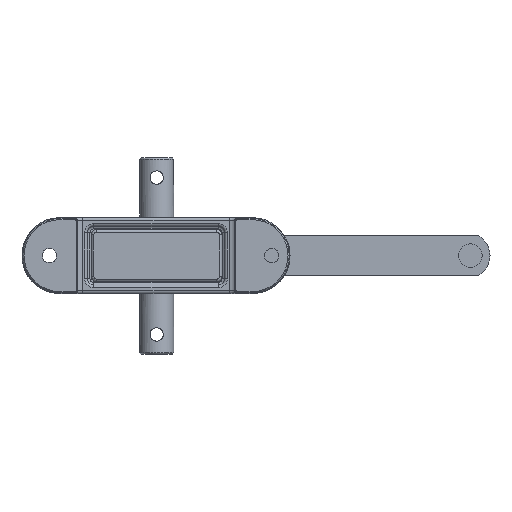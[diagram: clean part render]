
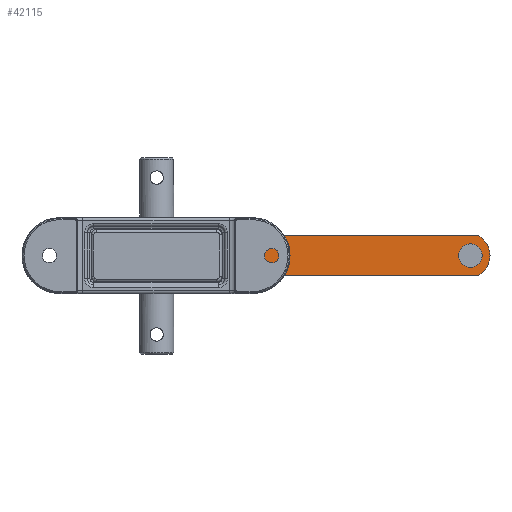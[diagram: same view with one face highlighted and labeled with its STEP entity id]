
A CAD part, left-side view. The second image highlights one B-rep face of the part: STEP entity #42115.
In plain terms, the highlighted planar face has unit normal (-1, 0, 0).
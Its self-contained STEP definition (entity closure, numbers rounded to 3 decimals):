
#957=FACE_BOUND('',#8637,.T.);
#958=FACE_BOUND('',#8638,.T.);
#1354=PLANE('',#45356);
#6144=FACE_OUTER_BOUND('',#8636,.T.);
#8636=EDGE_LOOP('',(#33202,#33203,#33204,#33205));
#8637=EDGE_LOOP('',(#33206));
#8638=EDGE_LOOP('',(#33207,#33208,#33209,#33210,#33211,#33212,#33213,#33214));
#11093=LINE('',#79354,#14530);
#11094=LINE('',#79357,#14531);
#11095=LINE('',#79360,#14532);
#11096=LINE('',#79363,#14533);
#11097=LINE('',#79365,#14534);
#11098=LINE('',#79369,#14535);
#14530=VECTOR('',#50921,10.);
#14531=VECTOR('',#50924,10.);
#14532=VECTOR('',#50925,10.);
#14533=VECTOR('',#50928,10.);
#14534=VECTOR('',#50929,10.);
#14535=VECTOR('',#50932,10.);
#18043=CIRCLE('',#45349,7.);
#18044=CIRCLE('',#45351,1.619);
#18046=CIRCLE('',#45354,17.5);
#18048=CIRCLE('',#45357,17.5);
#18049=CIRCLE('',#45358,1.619);
#18050=CIRCLE('',#45359,1.619);
#18051=CIRCLE('',#45360,1.619);
#19665=VERTEX_POINT('',#79331);
#19666=VERTEX_POINT('',#79335);
#19667=VERTEX_POINT('',#79336);
#19670=VERTEX_POINT('',#79344);
#19671=VERTEX_POINT('',#79345);
#19674=VERTEX_POINT('',#79353);
#19675=VERTEX_POINT('',#79355);
#19676=VERTEX_POINT('',#79358);
#19677=VERTEX_POINT('',#79359);
#19678=VERTEX_POINT('',#79361);
#19679=VERTEX_POINT('',#79364);
#19680=VERTEX_POINT('',#79366);
#19681=VERTEX_POINT('',#79368);
#24592=EDGE_CURVE('',#19665,#19665,#18043,.T.);
#24593=EDGE_CURVE('',#19666,#19667,#18044,.T.);
#24597=EDGE_CURVE('',#19670,#19671,#18046,.T.);
#24601=EDGE_CURVE('',#19670,#19674,#11093,.T.);
#24602=EDGE_CURVE('',#19675,#19674,#18048,.T.);
#24603=EDGE_CURVE('',#19671,#19675,#11094,.T.);
#24604=EDGE_CURVE('',#19676,#19677,#11095,.T.);
#24605=EDGE_CURVE('',#19676,#19678,#18049,.T.);
#24606=EDGE_CURVE('',#19666,#19678,#11096,.T.);
#24607=EDGE_CURVE('',#19667,#19679,#11097,.T.);
#24608=EDGE_CURVE('',#19680,#19679,#18050,.T.);
#24609=EDGE_CURVE('',#19680,#19681,#11098,.T.);
#24610=EDGE_CURVE('',#19677,#19681,#18051,.T.);
#33202=ORIENTED_EDGE('',*,*,#24601,.T.);
#33203=ORIENTED_EDGE('',*,*,#24602,.F.);
#33204=ORIENTED_EDGE('',*,*,#24603,.F.);
#33205=ORIENTED_EDGE('',*,*,#24597,.F.);
#33206=ORIENTED_EDGE('',*,*,#24592,.T.);
#33207=ORIENTED_EDGE('',*,*,#24604,.F.);
#33208=ORIENTED_EDGE('',*,*,#24605,.T.);
#33209=ORIENTED_EDGE('',*,*,#24606,.F.);
#33210=ORIENTED_EDGE('',*,*,#24593,.T.);
#33211=ORIENTED_EDGE('',*,*,#24607,.T.);
#33212=ORIENTED_EDGE('',*,*,#24608,.F.);
#33213=ORIENTED_EDGE('',*,*,#24609,.T.);
#33214=ORIENTED_EDGE('',*,*,#24610,.F.);
#42115=ADVANCED_FACE('',(#6144,#957,#958),#1354,.T.);
#45349=AXIS2_PLACEMENT_3D('',#79333,#50901,#50902);
#45351=AXIS2_PLACEMENT_3D('',#79337,#50905,#50906);
#45354=AXIS2_PLACEMENT_3D('',#79346,#50913,#50914);
#45356=AXIS2_PLACEMENT_3D('',#79352,#50919,#50920);
#45357=AXIS2_PLACEMENT_3D('',#79356,#50922,#50923);
#45358=AXIS2_PLACEMENT_3D('',#79362,#50926,#50927);
#45359=AXIS2_PLACEMENT_3D('',#79367,#50930,#50931);
#45360=AXIS2_PLACEMENT_3D('',#79370,#50933,#50934);
#50901=DIRECTION('center_axis',(1.,0.,0.));
#50902=DIRECTION('ref_axis',(0.,-1.,0.));
#50905=DIRECTION('center_axis',(1.,0.,0.));
#50906=DIRECTION('ref_axis',(0.,0.707,0.707));
#50913=DIRECTION('center_axis',(1.,0.,0.));
#50914=DIRECTION('ref_axis',(0.,0.515,0.857));
#50919=DIRECTION('center_axis',(-1.,0.,0.));
#50920=DIRECTION('ref_axis',(0.,0.,1.));
#50921=DIRECTION('',(0.,-1.,0.));
#50922=DIRECTION('center_axis',(1.,0.,0.));
#50923=DIRECTION('ref_axis',(0.,-0.515,-0.857));
#50924=DIRECTION('',(0.,-1.,0.));
#50925=DIRECTION('',(0.,-0.707,0.707));
#50926=DIRECTION('center_axis',(1.,0.,0.));
#50927=DIRECTION('ref_axis',(0.,0.707,-0.707));
#50928=DIRECTION('',(0.,-0.707,-0.707));
#50929=DIRECTION('',(0.,-0.707,0.707));
#50930=DIRECTION('center_axis',(-1.,0.,0.));
#50931=DIRECTION('ref_axis',(0.,0.707,0.707));
#50932=DIRECTION('',(0.,-0.707,-0.707));
#50933=DIRECTION('center_axis',(-1.,0.,0.));
#50934=DIRECTION('ref_axis',(0.,-0.707,0.707));
#79331=CARTESIAN_POINT('',(140.5,-192.965,0.));
#79333=CARTESIAN_POINT('Origin',(140.5,-199.965,0.));
#79335=CARTESIAN_POINT('',(140.5,7.411,-1.145));
#79336=CARTESIAN_POINT('',(140.5,7.411,1.145));
#79337=CARTESIAN_POINT('Origin',(140.5,6.266,0.));
#79344=CARTESIAN_POINT('',(140.5,6.549,-15.));
#79345=CARTESIAN_POINT('',(140.5,6.549,15.));
#79346=CARTESIAN_POINT('Origin',(140.5,-2.465,0.));
#79352=CARTESIAN_POINT('Origin',(140.5,-99.965,-15.001));
#79353=CARTESIAN_POINT('',(140.5,-206.479,-15.));
#79354=CARTESIAN_POINT('',(140.5,6.549,-15.));
#79355=CARTESIAN_POINT('',(140.5,-206.479,15.));
#79356=CARTESIAN_POINT('Origin',(140.5,-197.465,0.));
#79357=CARTESIAN_POINT('',(140.5,6.549,15.));
#79358=CARTESIAN_POINT('',(140.5,-1.109,-7.376));
#79359=CARTESIAN_POINT('',(140.5,-7.34,-1.145));
#79360=CARTESIAN_POINT('',(140.5,-1.109,-7.376));
#79361=CARTESIAN_POINT('',(140.5,1.18,-7.376));
#79362=CARTESIAN_POINT('Origin',(140.5,0.035,-6.231));
#79363=CARTESIAN_POINT('',(140.5,7.411,-1.145));
#79364=CARTESIAN_POINT('',(140.5,1.18,7.376));
#79365=CARTESIAN_POINT('',(140.5,7.411,1.145));
#79366=CARTESIAN_POINT('',(140.5,-1.109,7.376));
#79367=CARTESIAN_POINT('Origin',(140.5,0.035,6.231));
#79368=CARTESIAN_POINT('',(140.5,-7.34,1.145));
#79369=CARTESIAN_POINT('',(140.5,-1.109,7.376));
#79370=CARTESIAN_POINT('Origin',(140.5,-6.196,0.));
